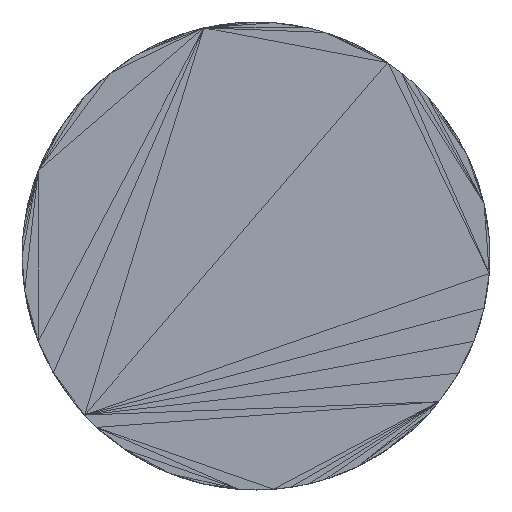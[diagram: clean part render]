
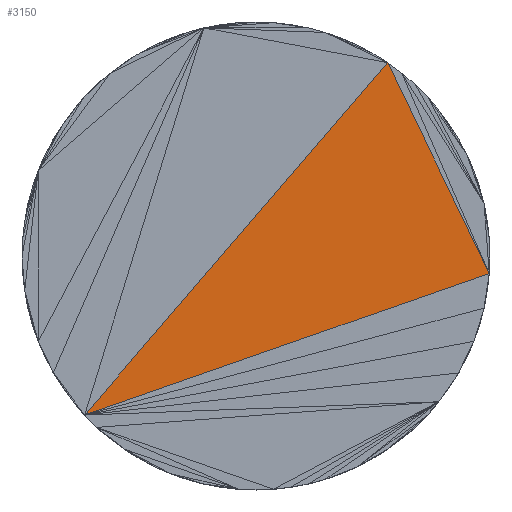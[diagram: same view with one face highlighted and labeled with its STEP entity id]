
A CAD part, top view. The second image highlights one B-rep face of the part: STEP entity #3150.
In plain terms, the highlighted planar face has unit normal (0, 0, 1).
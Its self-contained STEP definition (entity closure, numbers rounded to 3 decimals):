
#1188 = VERTEX_POINT('',#1189);
#1189 = CARTESIAN_POINT('',(2.942,4.78,
    -9.3));
#1366 = PLANE('',#1367);
#1367 = AXIS2_PLACEMENT_3D('',#1368,#1369,#1370);
#1368 = CARTESIAN_POINT('',(2.323,6.125,
    -9.3));
#1369 = DIRECTION('',(0.,0.,1.));
#1370 = DIRECTION('',(1.,0.,-0.));
#2111 = VERTEX_POINT('',#2112);
#2112 = CARTESIAN_POINT('',(-2.163,2.993,
    -9.3));
#2375 = PLANE('',#2376);
#2376 = AXIS2_PLACEMENT_3D('',#2377,#2378,#2379);
#2377 = CARTESIAN_POINT('',(0.475,3.811,
    -9.3));
#2378 = DIRECTION('',(0.,0.,1.));
#2379 = DIRECTION('',(1.,0.,-0.));
#2415 = EDGE_CURVE('',#2111,#1188,#2416,.T.);
#2416 = SURFACE_CURVE('',#2417,(#2421,#2427),.PCURVE_S1.);
#2417 = LINE('',#2418,#2419);
#2418 = CARTESIAN_POINT('',(-2.163,2.993,
    -9.3));
#2419 = VECTOR('',#2420,1.);
#2420 = DIRECTION('',(0.944,0.33,0.));
#2421 = PCURVE('',#2375,#2422);
#2422 = DEFINITIONAL_REPRESENTATION('',(#2423),#2426);
#2423 = B_SPLINE_CURVE_WITH_KNOTS('',1,(#2424,#2425),.UNSPECIFIED.,.F.,
  .F.,(2,2),(0.,5.408),.PIECEWISE_BEZIER_KNOTS.);
#2424 = CARTESIAN_POINT('',(-2.637,-0.817));
#2425 = CARTESIAN_POINT('',(2.467,0.969));
#2426 = ( GEOMETRIC_REPRESENTATION_CONTEXT(2) 
PARAMETRIC_REPRESENTATION_CONTEXT() REPRESENTATION_CONTEXT('2D SPACE',''
  ) );
#2427 = PCURVE('',#2428,#2433);
#2428 = PLANE('',#2429);
#2429 = AXIS2_PLACEMENT_3D('',#2430,#2431,#2432);
#2430 = CARTESIAN_POINT('',(0.522,4.895,
    -9.3));
#2431 = DIRECTION('',(0.,0.,1.));
#2432 = DIRECTION('',(1.,0.,-0.));
#2433 = DEFINITIONAL_REPRESENTATION('',(#2434),#2438);
#2434 = LINE('',#2435,#2436);
#2435 = CARTESIAN_POINT('',(-2.685,-1.902));
#2436 = VECTOR('',#2437,1.);
#2437 = DIRECTION('',(0.944,0.33));
#2438 = ( GEOMETRIC_REPRESENTATION_CONTEXT(2) 
PARAMETRIC_REPRESENTATION_CONTEXT() REPRESENTATION_CONTEXT('2D SPACE',''
  ) );
#3063 = PLANE('',#3064);
#3064 = AXIS2_PLACEMENT_3D('',#3065,#3066,#3067);
#3065 = CARTESIAN_POINT('',(-0.561,5.732,
    -9.3));
#3066 = DIRECTION('',(0.,0.,1.));
#3067 = DIRECTION('',(1.,0.,-0.));
#3103 = EDGE_CURVE('',#2111,#3104,#3106,.T.);
#3104 = VERTEX_POINT('',#3105);
#3105 = CARTESIAN_POINT('',(1.662,7.437,-9.3
    ));
#3106 = SURFACE_CURVE('',#3107,(#3111,#3118),.PCURVE_S1.);
#3107 = LINE('',#3108,#3109);
#3108 = CARTESIAN_POINT('',(-2.163,2.993,
    -9.3));
#3109 = VECTOR('',#3110,1.);
#3110 = DIRECTION('',(0.652,0.758,0.));
#3111 = PCURVE('',#3063,#3112);
#3112 = DEFINITIONAL_REPRESENTATION('',(#3113),#3117);
#3113 = LINE('',#3114,#3115);
#3114 = CARTESIAN_POINT('',(-1.601,-2.738));
#3115 = VECTOR('',#3116,1.);
#3116 = DIRECTION('',(0.652,0.758));
#3117 = ( GEOMETRIC_REPRESENTATION_CONTEXT(2) 
PARAMETRIC_REPRESENTATION_CONTEXT() REPRESENTATION_CONTEXT('2D SPACE',''
  ) );
#3118 = PCURVE('',#2428,#3119);
#3119 = DEFINITIONAL_REPRESENTATION('',(#3120),#3123);
#3120 = B_SPLINE_CURVE_WITH_KNOTS('',1,(#3121,#3122),.UNSPECIFIED.,.F.,
  .F.,(2,2),(0.,5.863),.PIECEWISE_BEZIER_KNOTS.);
#3121 = CARTESIAN_POINT('',(-2.685,-1.902));
#3122 = CARTESIAN_POINT('',(1.139,2.542));
#3123 = ( GEOMETRIC_REPRESENTATION_CONTEXT(2) 
PARAMETRIC_REPRESENTATION_CONTEXT() REPRESENTATION_CONTEXT('2D SPACE',''
  ) );
#3150 = ADVANCED_FACE('',(#3151),#2428,.T.);
#3151 = FACE_BOUND('',#3152,.T.);
#3152 = EDGE_LOOP('',(#3153,#3154,#3174));
#3153 = ORIENTED_EDGE('',*,*,#2415,.T.);
#3154 = ORIENTED_EDGE('',*,*,#3155,.T.);
#3155 = EDGE_CURVE('',#1188,#3104,#3156,.T.);
#3156 = SURFACE_CURVE('',#3157,(#3161,#3168),.PCURVE_S1.);
#3157 = LINE('',#3158,#3159);
#3158 = CARTESIAN_POINT('',(2.942,4.78,
    -9.3));
#3159 = VECTOR('',#3160,1.);
#3160 = DIRECTION('',(-0.434,0.901,0.));
#3161 = PCURVE('',#2428,#3162);
#3162 = DEFINITIONAL_REPRESENTATION('',(#3163),#3167);
#3163 = LINE('',#3164,#3165);
#3164 = CARTESIAN_POINT('',(2.419,-0.116));
#3165 = VECTOR('',#3166,1.);
#3166 = DIRECTION('',(-0.434,0.901));
#3167 = ( GEOMETRIC_REPRESENTATION_CONTEXT(2) 
PARAMETRIC_REPRESENTATION_CONTEXT() REPRESENTATION_CONTEXT('2D SPACE',''
  ) );
#3168 = PCURVE('',#1366,#3169);
#3169 = DEFINITIONAL_REPRESENTATION('',(#3170),#3173);
#3170 = B_SPLINE_CURVE_WITH_KNOTS('',1,(#3171,#3172),.UNSPECIFIED.,.F.,
  .F.,(2,2),(0.,2.95),.PIECEWISE_BEZIER_KNOTS.);
#3171 = CARTESIAN_POINT('',(0.619,-1.345));
#3172 = CARTESIAN_POINT('',(-0.661,1.312));
#3173 = ( GEOMETRIC_REPRESENTATION_CONTEXT(2) 
PARAMETRIC_REPRESENTATION_CONTEXT() REPRESENTATION_CONTEXT('2D SPACE',''
  ) );
#3174 = ORIENTED_EDGE('',*,*,#3103,.F.);
